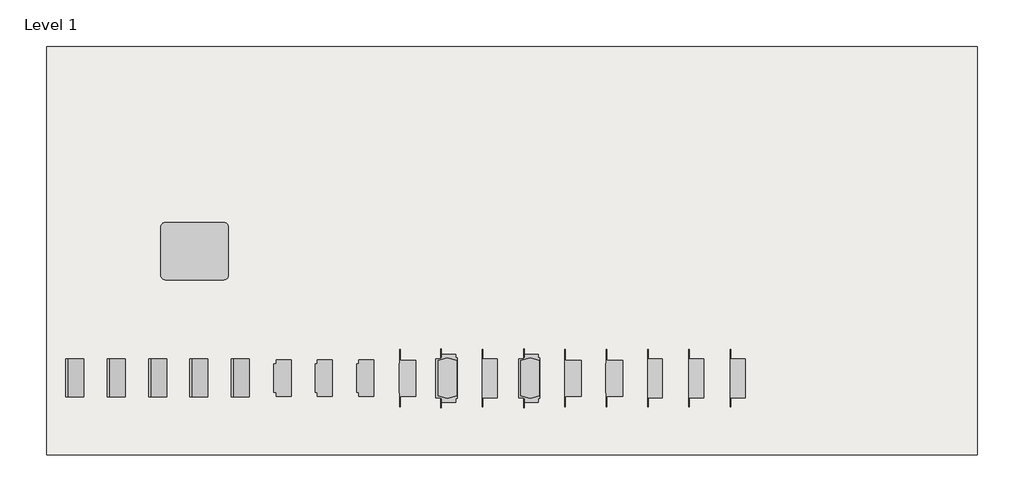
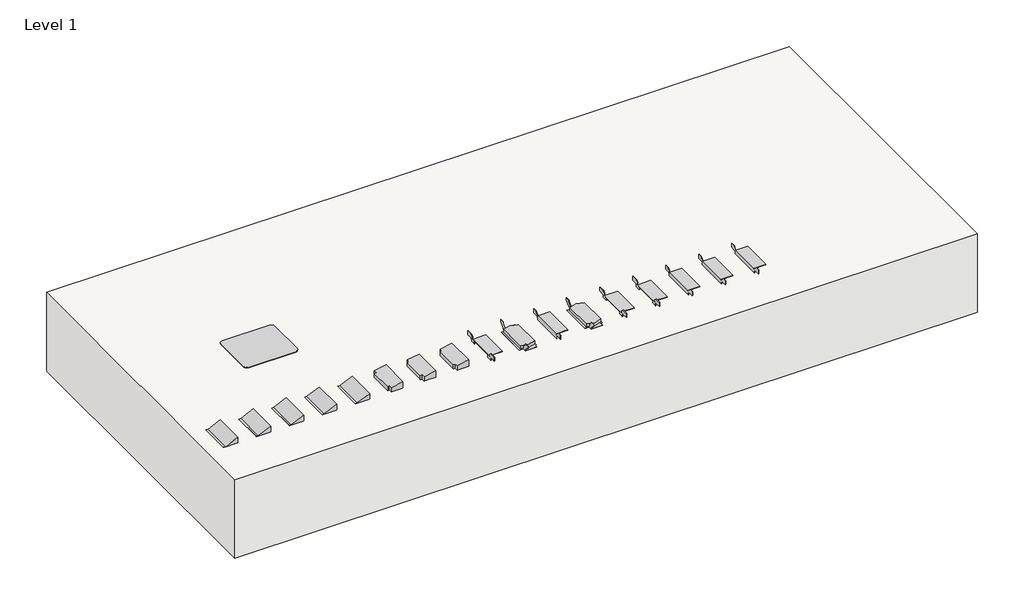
# One storey: 18 proxies, 1 slab.
"""IFC4 building model written with IfcOpenShell, lengths in millimetres."""

from ifc_helpers import new_model, si_unit, origin, place, context, project, spatial, faceted_brep, transform, mapped, element, save
from components import electrical_fixtures_02c921e2, electrical_fixtures_10a2b2ec, electrical_fixtures_fcf9e8a6, side_duplex_dtb_2_sd_23a9a8d4, end_blank_rfb_b_42515b03, standard_85e2827f

model = new_model("IFC4")

# Units and contexts
model_context = context("Model", 3, world=origin())
ifc_project = project(units=[si_unit("LENGTHUNIT", "METRE", prefix="MILLI")], contexts=[model_context])

# Site, building, storey
site = spatial("IfcSite", under=ifc_project)
building = spatial("IfcBuilding", under=site)
storey = spatial("IfcBuildingStorey", under=building, Name="Level 1", Elevation=0.0)

# Proxies
placement = place(None, origin())
electrical_fixtures_shape = electrical_fixtures_02c921e2(model_context)
element("IfcBuildingElementProxy", 1, Name="Device_Plate-Resource_Series-Wiremold-RFB4 : Either, With One ABS2 Series II Adapter, WTB-2-RT", ObjectType="Device_Plate-Resource_Series-Wiremold-RFB4 : Either, With One ABS2 Series II Adapter, WTB-2-RT", at=placement, inside=storey, context=model_context, shape_type="MappedRepresentation", body=[
    mapped(electrical_fixtures_shape, transform((1453.1700422, 409.5502254, 0.0), x_axis=(0.0, 1.0, 0.0), y_axis=(-1.0, 0.0, 0.0), z_axis=(0.0, 0.0, 1.0))),
])
element("IfcBuildingElementProxy", 2, Name="Device_Plate-Resource_Series-Wiremold-RFB4 : Either, For Two Extron AAP Series Devices, WTB-AAP", ObjectType="Device_Plate-Resource_Series-Wiremold-RFB4 : Either, For Two Extron AAP Series Devices, WTB-AAP", at=placement, inside=storey, context=model_context, shape_type="MappedRepresentation", body=[
    mapped(electrical_fixtures_shape, transform((1091.2200422, 409.5502254, 0.0), x_axis=(0.0, 1.0, 0.0), y_axis=(-1.0, 0.0, 0.0), z_axis=(0.0, 0.0, 1.0))),
])
element("IfcBuildingElementProxy", 3, Name="Device_Plate-Resource_Series-Wiremold-RFB4 : Either, For Two Extron MAAP Series Devices, WTB-MAAP", ObjectType="Device_Plate-Resource_Series-Wiremold-RFB4 : Either, For Two Extron MAAP Series Devices, WTB-MAAP", at=placement, inside=storey, context=model_context, shape_type="MappedRepresentation", body=[
    mapped(electrical_fixtures_shape, transform((1211.8700422, 409.5502254, 0.0), x_axis=(0.0, 1.0, 0.0), y_axis=(-1.0, 0.0, 0.0), z_axis=(0.0, 0.0, 1.0))),
])
element("IfcBuildingElementProxy", 4, Name="Device_Plate-Resource_Series-Wiremold-RFB4 : Either, With One 2A Size Pass & Seymour Activate Adapter, WTB-2-AB", ObjectType="Device_Plate-Resource_Series-Wiremold-RFB4 : Either, With One 2A Size Pass & Seymour Activate Adapter, WTB-2-AB", at=placement, inside=storey, context=model_context, shape_type="MappedRepresentation", body=[
    mapped(electrical_fixtures_shape, transform((1332.5200422, 409.5502254, 0.0), x_axis=(0.0, 1.0, 0.0), y_axis=(-1.0, 0.0, 0.0), z_axis=(0.0, 0.0, 1.0))),
])
element("IfcBuildingElementProxy", 5, Name="Device_Plate-Resource_Series-Wiremold-RFB4 : Either, With One TracJack Series Adapter, WTB-2-RT", ObjectType="Device_Plate-Resource_Series-Wiremold-RFB4 : Either, With One TracJack Series Adapter, WTB-2-RT", at=placement, inside=storey, context=model_context, shape_type="MappedRepresentation", body=[
    mapped(electrical_fixtures_shape, transform((1573.8200422, 409.5502254, 0.0), x_axis=(0.0, 1.0, 0.0), y_axis=(-1.0, 0.0, 0.0), z_axis=(0.0, 0.0, 1.0))),
])
electrical_fixtures_2_shape = electrical_fixtures_10a2b2ec(model_context)
element("IfcBuildingElementProxy", 6, Name="Device_Plate-Resource_Series-Wiremold-RFB4 : Side, For Ortronics Series 2, RFB4-LPBS2", ObjectType="Device_Plate-Resource_Series-Wiremold-RFB4 : Side, For Ortronics Series 2, RFB4-LPBS2", at=placement, inside=storey, context=model_context, shape_type="MappedRepresentation", body=[
    mapped(electrical_fixtures_2_shape, transform((2177.0700422, 409.5502254, 0.0), x_axis=(0.0, 1.0, 0.0), y_axis=(-1.0, 0.0, 0.0), z_axis=(0.0, 0.0, 1.0))),
])
electrical_fixtures_3_shape = electrical_fixtures_fcf9e8a6(model_context)
element("IfcBuildingElementProxy", 7, Name="Device_Plate-Resource_Series-Wiremold-RFB4 : Side, For Two CM Series Adapter, DTB-2-2AB", ObjectType="Device_Plate-Resource_Series-Wiremold-RFB4 : Side, For Two CM Series Adapter, DTB-2-2AB", at=placement, inside=storey, context=model_context, shape_type="MappedRepresentation", body=[
    mapped(electrical_fixtures_3_shape, transform((2297.7200422, 409.5502254, 0.0), x_axis=(0.0, 1.0, 0.0), y_axis=(-1.0, 0.0, 0.0), z_axis=(0.0, 0.0, 1.0))),
])
element("IfcBuildingElementProxy", 8, Name="Device_Plate-Resource_Series-Wiremold-RFB4 : Side, For Wiremold CM Series, RFB4-LPB", ObjectType="Device_Plate-Resource_Series-Wiremold-RFB4 : Side, For Wiremold CM Series, RFB4-LPB", at=placement, inside=storey, context=model_context, shape_type="MappedRepresentation", body=[
    mapped(electrical_fixtures_2_shape, transform((2418.3700422, 409.5502254, 0.0), x_axis=(0.0, 1.0, 0.0), y_axis=(-1.0, 0.0, 0.0), z_axis=(0.0, 0.0, 1.0))),
])
side_duplex_dtb_2_sd_shape = side_duplex_dtb_2_sd_23a9a8d4(model_context)
element("IfcBuildingElementProxy", 9, Name="Device_Plate-Resource_Series-Wiremold-RFB4 : Side, With Four RJ Knockouts, DTB-2-4TKO", ObjectType="Device_Plate-Resource_Series-Wiremold-RFB4 : Side, With Four RJ Knockouts, DTB-2-4TKO", at=placement, inside=storey, context=model_context, shape_type="MappedRepresentation", body=[
    mapped(side_duplex_dtb_2_sd_shape, transform((2539.0200422, 409.5502254, 0.0), x_axis=(0.0, 1.0, 0.0), y_axis=(-1.0, 0.0, 0.0), z_axis=(0.0, 0.0, 1.0))),
])
element("IfcBuildingElementProxy", 10, Name="Device_Plate-Resource_Series-Wiremold-RFB4 : Side, With One TracJack and One ABS2 Series Adapter, DTB-2-2RT", ObjectType="Device_Plate-Resource_Series-Wiremold-RFB4 : Side, With One TracJack and One ABS2 Series Adapter, DTB-2-2RT", at=placement, inside=storey, context=model_context, shape_type="MappedRepresentation", body=[
    mapped(electrical_fixtures_3_shape, transform((2780.3200422, 409.5502254, 0.0), x_axis=(0.0, 1.0, 0.0), y_axis=(-1.0, 0.0, 0.0), z_axis=(0.0, 0.0, 1.0))),
])
element("IfcBuildingElementProxy", 11, Name="Device_Plate-Resource_Series-Wiremold-RFB4 : Side, With Two TracJack Series Adapter, DTB-2-2RT", ObjectType="Device_Plate-Resource_Series-Wiremold-RFB4 : Side, With Two TracJack Series Adapter, DTB-2-2RT", at=placement, inside=storey, context=model_context, shape_type="MappedRepresentation", body=[
    mapped(electrical_fixtures_3_shape, transform((3021.6200422, 409.5502254, 0.0), x_axis=(0.0, 1.0, 0.0), y_axis=(-1.0, 0.0, 0.0), z_axis=(0.0, 0.0, 1.0))),
])
end_blank_rfb_b_shape = end_blank_rfb_b_42515b03(model_context)
element("IfcBuildingElementProxy", 12, Name="Device_Plate-Resource_Series-Wiremold-RFB4 : End, Blank, RFB-B", ObjectType="Device_Plate-Resource_Series-Wiremold-RFB4 : End, Blank, RFB-B", at=placement, inside=storey, context=model_context, shape_type="MappedRepresentation", body=[
    mapped(end_blank_rfb_b_shape, transform((1694.4700422, 409.5502254, 0.0), x_axis=(0.0, 1.0, 0.0), y_axis=(-1.0, 0.0, 0.0), z_axis=(0.0, 0.0, 1.0))),
])
element("IfcBuildingElementProxy", 13, Name="Device_Plate-Resource_Series-Wiremold-RFB4 : End, Duplex, RFB-DR", ObjectType="Device_Plate-Resource_Series-Wiremold-RFB4 : End, Duplex, RFB-DR", at=placement, inside=storey, context=model_context, shape_type="MappedRepresentation", body=[
    mapped(end_blank_rfb_b_shape, transform((1815.1200422, 409.5502254, 0.0), x_axis=(0.0, 1.0, 0.0), y_axis=(-1.0, 0.0, 0.0), z_axis=(0.0, 0.0, 1.0))),
])
element("IfcBuildingElementProxy", 14, Name="Device_Plate-Resource_Series-Wiremold-RFB4 : End, GFI, RFB-GFI", ObjectType="Device_Plate-Resource_Series-Wiremold-RFB4 : End, GFI, RFB-GFI", at=placement, inside=storey, context=model_context, shape_type="MappedRepresentation", body=[
    mapped(end_blank_rfb_b_shape, transform((1935.7700422, 409.5502254, 0.0), x_axis=(0.0, 1.0, 0.0), y_axis=(-1.0, 0.0, 0.0), z_axis=(0.0, 0.0, 1.0))),
])
element("IfcBuildingElementProxy", 15, Name="Device_Plate-Resource_Series-Wiremold-RFB4 : Side, Duplex, DTB-2-SD", ObjectType="Device_Plate-Resource_Series-Wiremold-RFB4 : Side, Duplex, DTB-2-SD", at=placement, inside=storey, context=model_context, shape_type="MappedRepresentation", body=[
    mapped(side_duplex_dtb_2_sd_shape, transform((2056.4200422, 409.5502254, 0.0), x_axis=(0.0, 1.0, 0.0), y_axis=(-1.0, 0.0, 0.0), z_axis=(0.0, 0.0, 1.0))),
])
element("IfcBuildingElementProxy", 16, Name="Device_Plate-Resource_Series-Wiremold-RFB4 : Side, With IBM Type 2 Opening, DTB-2-DT", ObjectType="Device_Plate-Resource_Series-Wiremold-RFB4 : Side, With IBM Type 2 Opening, DTB-2-DT", at=placement, inside=storey, context=model_context, shape_type="MappedRepresentation", body=[
    mapped(side_duplex_dtb_2_sd_shape, transform((2659.6700422, 409.5502254, 0.0), x_axis=(0.0, 1.0, 0.0), y_axis=(-1.0, 0.0, 0.0), z_axis=(0.0, 0.0, 1.0))),
])
element("IfcBuildingElementProxy", 17, Name="Device_Plate-Resource_Series-Wiremold-RFB4 : Side, With Two ABS2 Series Adapter, DTB-2-2RT", ObjectType="Device_Plate-Resource_Series-Wiremold-RFB4 : Side, With Two ABS2 Series Adapter, DTB-2-2RT", at=placement, inside=storey, context=model_context, shape_type="MappedRepresentation", body=[
    mapped(electrical_fixtures_3_shape, transform((2900.9700422, 409.5502254, 0.0), x_axis=(0.0, 1.0, 0.0), y_axis=(-1.0, 0.0, 0.0), z_axis=(0.0, 0.0, 1.0))),
])
standard_shape = standard_85e2827f(model_context)
element("IfcBuildingElementProxy", 18, Name="Floor_Box-Resource_Series-Wiremold-RFB4 : Standard", ObjectType="Floor_Box-Resource_Series-Wiremold-RFB4 : Standard", at=placement, inside=storey, context=model_context, shape_type="MappedRepresentation", body=[
    mapped(standard_shape, transform((2265.4881988, 780.9644463, 0.1031875), x_axis=(1.0, 0.0, 0.0), y_axis=(0.0, 1.0, 0.0), z_axis=(0.0, 0.0, 1.0))),
])

# Slab
element("IfcSlab", 19, ObjectType="Generic - 12\"", at=placement, inside=storey, context=model_context, shape_type="Brep", body=[
    faceted_brep([(4550.9973575, 1378.9766815, -304.8), (4550.9973575, 185.1766815, -304.8), (1833.1973575, 185.1766815, -304.8), (1833.1973575, 1378.9766815, -304.8), (4550.9973575, 185.1766815, 0.0), (4550.9973575, 1378.9766815, 0.0), (1833.1973575, 1378.9766815, 0.0), (1833.1973575, 185.1766815, 0.0), (2178.1756988, 852.4019463, 0.0), (2352.8006988, 852.4019463, 0.0), (2352.8006988, 709.5269463, 0.0), (2178.1756988, 709.5269463, 0.0), (2116.2631988, 706.3519463, -3.0718125), (2116.2631988, 855.5769463, -3.0718125), (2205.1631988, 855.5769463, -3.0718125), (2205.1631988, 907.9644463, -3.0718125), (2325.8131988, 907.9644463, -3.0718125), (2325.8131988, 855.5769463, -3.0718125), (2440.1131988, 855.5769463, -3.0718125), (2440.1131988, 706.3519463, -3.0718125), (2325.8131988, 706.3519463, -3.0718125), (2325.8131988, 653.9644463, -3.0718125), (2205.1631988, 653.9644463, -3.0718125), (2205.1631988, 706.3519463, -3.0718125), (2352.8006988, 852.4019463, -3.0718125), (2178.1756988, 852.4019463, -3.0718125), (2178.1756988, 709.5269463, -3.0718125), (2352.8006988, 709.5269463, -3.0718125), (2116.2631988, 706.3519463, -85.6218125), (2205.1631988, 706.3519463, -85.6218125), (2205.1631988, 653.9644463, -85.6218125), (2325.8131988, 653.9644463, -85.6218125), (2325.8131988, 706.3519463, -85.6218125), (2440.1131988, 706.3519463, -85.6218125), (2440.1131988, 855.5769463, -85.6218125), (2325.8131988, 855.5769463, -85.6218125), (2325.8131988, 907.9644463, -85.6218125), (2205.1631988, 907.9644463, -85.6218125), (2205.1631988, 855.5769463, -85.6218125), (2116.2631988, 855.5769463, -85.6218125)], [[[0, 1, 2, 3]], [[4, 5, 6, 7], [8, 9, 10, 11]], [[1, 0, 5, 4]], [[2, 1, 4, 7]], [[3, 2, 7, 6]], [[0, 3, 6, 5]], [[12, 13, 14, 15, 16, 17, 18, 19, 20, 21, 22, 23], [24, 25, 26, 27]], [[28, 29, 30, 31, 32, 33, 34, 35, 36, 37, 38, 39]], [[12, 23, 29, 28]], [[23, 22, 30, 29]], [[22, 21, 31, 30]], [[21, 20, 32, 31]], [[20, 19, 33, 32]], [[19, 18, 34, 33]], [[18, 17, 35, 34]], [[17, 16, 36, 35]], [[16, 15, 37, 36]], [[15, 14, 38, 37]], [[14, 13, 39, 38]], [[13, 12, 28, 39]], [[25, 24, 9, 8]], [[26, 25, 8, 11]], [[27, 26, 11, 10]], [[24, 27, 10, 9]]]),
])

save(model, "model.ifc")
